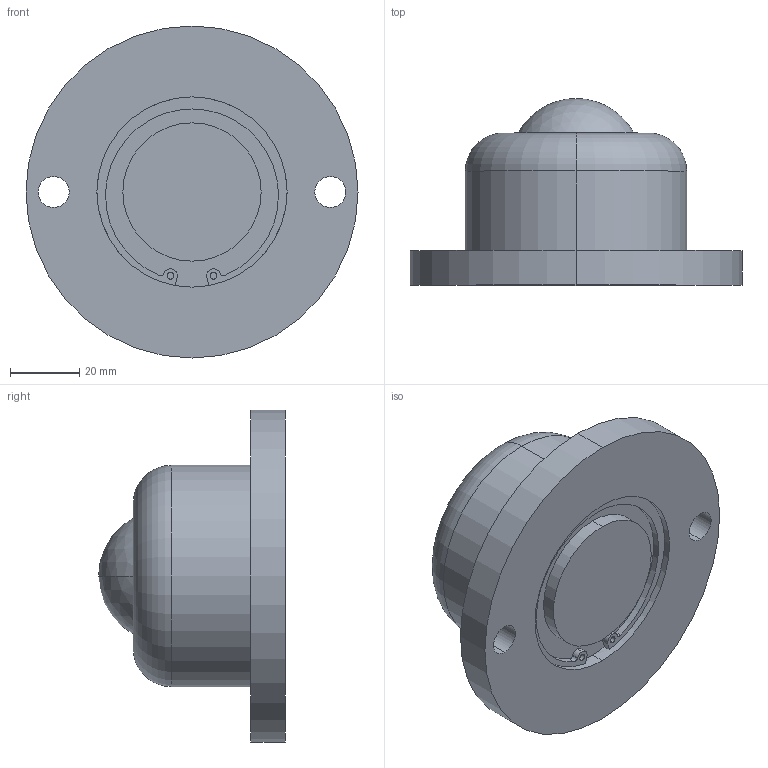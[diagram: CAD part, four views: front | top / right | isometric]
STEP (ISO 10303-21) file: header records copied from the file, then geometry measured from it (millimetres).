
FILE_DESCRIPTION (( 'STEP AP203' ), '1' );
FILE_NAME ('PV260F.STEP', '2015-12-09T01:26:10', ( '' ), ( '' ), 'SwSTEP 2.0', 'SolidWorks 2013', '' );
FILE_SCHEMA (( 'CONFIG_CONTROL_DESIGN' ));
Length unit declared in the file: millimetre
Products named in the file (1): PV260F
Bounding box: 96 x 54 x 96 mm (x, y, z)
Volume: 176951.7 mm3; surface area: 25161.6 mm2
Topology: 1 solids, 1 shells, 40 faces, 95 edges, 63 vertices
Faces by surface type: cylinder 24, plane 12, torus 2, sphere 2
Entity records: 1274 total; most frequent: DIRECTION 235, CARTESIAN_POINT 199, ORIENTED_EDGE 190, AXIS2_PLACEMENT_3D 99, EDGE_CURVE 95, VERTEX_POINT 63, CIRCLE 58, EDGE_LOOP 50
